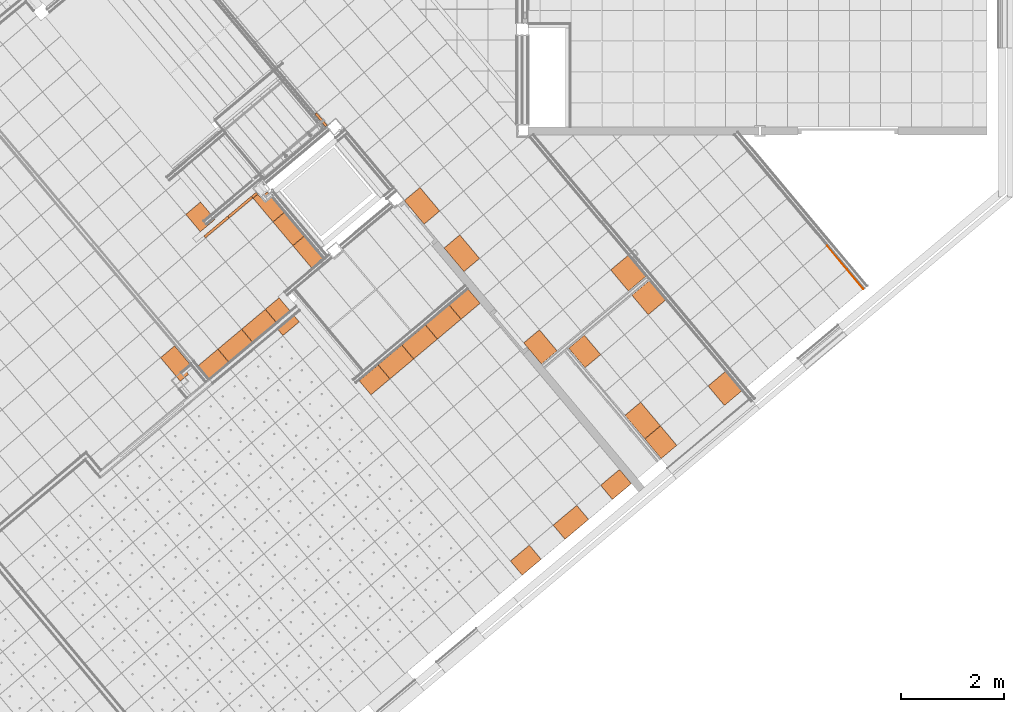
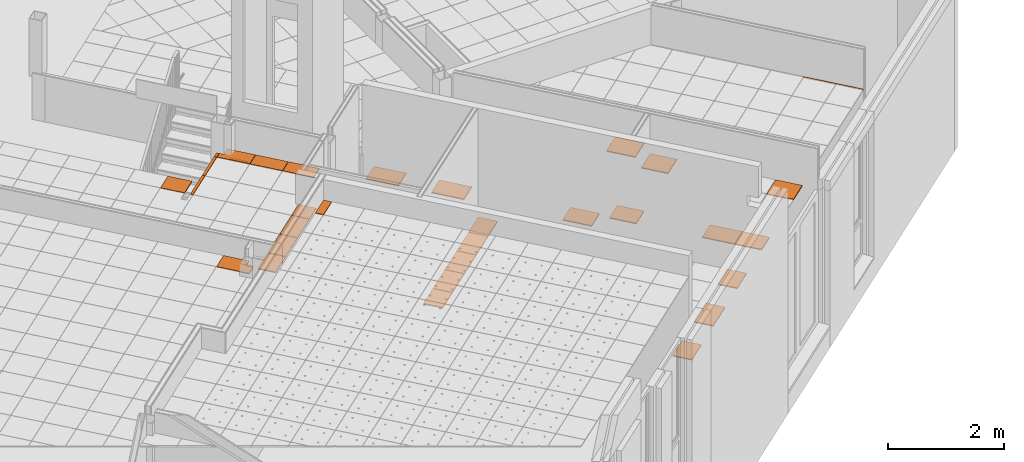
# One storey, part 329 of 338: 33 proxies, 7 elements without a shape of their own.
"""IFC2X3 building model written with IfcOpenShell, lengths in millimetres."""

from ifc_helpers import new_model, entity, si_unit, converted_unit, derived_unit, money_unit, direction, frame, origin_with_axes, place, context, subcontext, project, spatial, faceted_brep, material, type_object, element, aggregate, save


model = new_model("IFC2X3")

# Units and contexts
model_context = context("Model", 3, precision=0.01, world=origin_with_axes(), true_north=direction((0.0, 1.0)))
plan_context = context("Plan", 3, precision=0.01, world=origin_with_axes(), true_north=direction((0.0, 1.0)))
body_context = subcontext(model_context, "Body", "Model", "MODEL_VIEW")
ifc_project = project(units=[si_unit("LENGTHUNIT", "METRE", prefix="MILLI"), si_unit("AREAUNIT", "SQUARE_METRE"), si_unit("VOLUMEUNIT", "CUBIC_METRE"), converted_unit("PLANEANGLEUNIT", "DEGREE", entity("IfcPlaneAngleMeasure", 0.0174532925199), si_unit("PLANEANGLEUNIT", "RADIAN"), dimensions=[0, 0, 0, 0, 0, 0, 0]), money_unit("EUR"), converted_unit("TIMEUNIT", "Year", entity("IfcTimeMeasure", 31556926.0), si_unit("TIMEUNIT", "SECOND"), dimensions=[0, 0, 1, 0, 0, 0, 0]), si_unit("MASSUNIT", "GRAM", prefix="KILO"), si_unit("THERMODYNAMICTEMPERATUREUNIT", "DEGREE_CELSIUS"), si_unit("LUMINOUSINTENSITYUNIT", "LUMEN"), si_unit("ENERGYUNIT", "JOULE", prefix="MEGA"), derived_unit("THERMALCONDUCTANCEUNIT", [(si_unit("POWERUNIT", "WATT"), 1), (si_unit("LENGTHUNIT", "METRE"), -1), (si_unit("THERMODYNAMICTEMPERATUREUNIT", "KELVIN"), -1)]), derived_unit("SPECIFICHEATCAPACITYUNIT", [(si_unit("ENERGYUNIT", "JOULE"), 1), (si_unit("MASSUNIT", "GRAM", prefix="KILO"), -1), (si_unit("THERMODYNAMICTEMPERATUREUNIT", "KELVIN"), -1)]), derived_unit("MASSDENSITYUNIT", [(si_unit("MASSUNIT", "GRAM", prefix="KILO"), 1), (si_unit("VOLUMEUNIT", "CUBIC_METRE"), -1)])], contexts=[model_context, plan_context])

# Site, building, storey
site_placement = place(None, origin_with_axes())
site = spatial("IfcSite", under=ifc_project, at=site_placement, Name="Fortuinstraat Woensdrecht", CompositionType="ELEMENT")
building_placement = place(site_placement, origin_with_axes())
building = spatial("IfcBuilding", under=site, at=building_placement, Name="IKC Fortuna", CompositionType="ELEMENT")
storey_placement = place(building_placement, origin_with_axes())
storey = spatial("IfcBuildingStorey", under=building, at=storey_placement, Name="00 begane grond", CompositionType="ELEMENT", Elevation=0.0)

# Covering, proxy
covering_type = type_object("IfcCoveringType", Name="Curtain Wall Type", PredefinedType="CEILING")
covering_1_placement = place(storey_placement, frame((27661.2988988, -1812.1109843, 2810.0), z_axis=(0.0, 0.0, 1.0), x_axis=(1.0, 0.0, 0.0)))
covering_1 = element("IfcCovering", 1, at=covering_1_placement, inside=storey, type_object=covering_type, Name="45_Plafondafwerking_P02 gec", PredefinedType="CEILING")
ifc_material = material(Name="Gipsplaat")
building_element_proxy_type_1 = type_object("IfcBuildingElementProxyType", Name="Distinct Panel 400 x 600 x 20", PredefinedType="NOTDEFINED")
proxy_1_placement = place(covering_1_placement, frame((281.259191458, -2046.50140739, 0.0), z_axis=(0.0, 0.0, 1.0), x_axis=(1.0, 0.0, 0.0)))
proxy_1 = element("IfcBuildingElementProxy", 2, at=proxy_1_placement, type_object=building_element_proxy_type_1, material=ifc_material, Name="__Panel-D", context=body_context, shape_type="Brep", body=[
    faceted_brep([(-39.9287102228, 354.854541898, -10.0), (-39.9287102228, 354.854541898, 9.99999999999), (342.529974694, -100.941844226, 9.99999999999), (342.529974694, -100.941844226, -10.0), (-342.52999242, 100.94185488, -10.0), (-342.52999242, 100.94185488, 9.99999999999), (39.9287138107, -354.854531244, 9.99999999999), (39.9287138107, -354.854531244, -10.0)], [[[0, 1, 2, 3]], [[4, 5, 1, 0]], [[1, 5, 6, 2]], [[3, 2, 6, 7]], [[0, 3, 7, 4]], [[7, 6, 5, 4]]]),
])

covering_2_placement = place(storey_placement, frame((26804.4884552, -1724.43837499, 3010.0), z_axis=(0.0, 0.0, 1.0), x_axis=(1.0, 0.0, 0.0)))
covering_2 = element("IfcCovering", 3, at=covering_2_placement, inside=storey, type_object=covering_type, Name="45_Plafondafwerking_P04", PredefinedType="CEILING")
proxy_2_placement = place(covering_2_placement, frame((-2365.66482567, 1108.01392246, 0.0), z_axis=(0.0, 0.0, 1.0), x_axis=(1.0, 0.0, 0.0)))
proxy_2 = element("IfcBuildingElementProxy", 4, at=proxy_2_placement, type_object=building_element_proxy_type_1, material=ifc_material, Name="__Panel-D", context=body_context, shape_type="Brep", body=[
    faceted_brep([(-39.9453310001, 354.840514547, -10.0), (-342.513192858, 100.956003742, -10.0), (-342.513192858, 100.956003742, 9.99999999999), (-39.9453310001, 354.840514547, 9.99999999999), (342.513214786, -100.955990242, -10.0), (39.9453103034, -354.840522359, -10.0), (39.9453103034, -354.840522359, 9.99999999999), (342.513214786, -100.955990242, 9.99999999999)], [[[0, 1, 2, 3]], [[0, 4, 5, 1]], [[1, 5, 6, 2]], [[3, 2, 6, 7]], [[4, 0, 3, 7]], [[5, 4, 7, 6]]]),
])

covering_3_placement = place(storey_placement, frame((17937.1227498, -4186.27868692, 4660.0), z_axis=(0.0, 0.0, 1.0), x_axis=(1.0, 0.0, 0.0)))
covering_3 = element("IfcCovering", 5, at=covering_3_placement, inside=storey, type_object=covering_type, Name="45_Plafondafwerking_P02", PredefinedType="CEILING")
building_element_proxy_type_2 = type_object("IfcBuildingElementProxyType", Name="Distinct Panel 360 x 600 x 20", PredefinedType="NOTDEFINED")
proxy_3_placement = place(covering_3_placement, frame((1036.85798382, 1396.35162056, 0.0), z_axis=(0.0, 0.0, 1.0), x_axis=(1.0, 0.0, 0.0)))
proxy_3 = element("IfcBuildingElementProxy", 6, at=proxy_3_placement, type_object=building_element_proxy_type_2, material=ifc_material, Name="__Panel-D", context=body_context, shape_type="Brep", body=[
    faceted_brep([(-100.558865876, 377.965927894, -10.0), (-372.700892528, 149.611535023, -10.0), (-372.700892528, 149.611535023, 9.99999999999), (-100.558865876, 377.965927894, 9.99999999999), (198.355598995, 21.7316853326, -10.0), (87.279471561, -71.472800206, -10.0), (170.822699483, -171.035274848, -10.0), (9.75783810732, -306.184801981, -10.0), (9.75783810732, -306.184801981, 9.99999999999), (170.822699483, -171.035274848, 9.99999999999), (87.279471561, -71.472800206, 9.99999999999), (198.355598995, 21.7316853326, 9.99999999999)], [[[0, 1, 2, 3]], [[0, 4, 5, 6, 7, 1]], [[1, 7, 8, 2]], [[3, 2, 8, 9, 10, 11]], [[4, 0, 3, 11]], [[5, 4, 11, 10]], [[6, 5, 10, 9]], [[7, 6, 9, 8]]]),
])
aggregate(covering_3, [proxy_3])

# Proxy
building_element_proxy_type_3 = type_object("IfcBuildingElementProxyType", Name="Distinct Panel 400 x 497 x 20", PredefinedType="NOTDEFINED")
proxy_4_placement = place(covering_1_placement, frame((633.828768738, -2466.67732944, 0.0), z_axis=(0.0, 0.0, 1.0), x_axis=(1.0, 0.0, 0.0)))
proxy_4 = element("IfcBuildingElementProxy", 7, at=proxy_4_placement, type_object=building_element_proxy_type_3, material=ifc_material, Name="__Panel-D", context=body_context, shape_type="Brep", body=[
    faceted_brep([(-6.82565973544, 315.403854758, -10.0), (-6.82565973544, 315.403854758, 9.99999999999), (309.426917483, -61.4911693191, 9.99999999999), (309.426917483, -61.4911693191, -10.0), (-309.426923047, 61.4911567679, -10.0), (-309.426923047, 61.4911567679, 9.99999999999), (6.82566365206, -315.403838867, 9.99999999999), (6.82566365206, -315.403838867, -10.0)], [[[0, 1, 2, 3]], [[4, 5, 1, 0]], [[1, 5, 6, 2]], [[3, 2, 6, 7]], [[0, 3, 7, 4]], [[7, 6, 5, 4]]]),
])

proxy_5_placement = place(covering_1_placement, frame((-842.655646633, -707.072262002, 0.0), z_axis=(0.0, 0.0, 1.0), x_axis=(1.0, 0.0, 0.0)))
proxy_5 = element("IfcBuildingElementProxy", 8, at=proxy_5_placement, type_object=building_element_proxy_type_3, material=ifc_material, Name="__Panel-D", context=body_context, shape_type="Brep", body=[
    faceted_brep([(-6.82566375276, 315.403851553, -10.0), (-6.82566375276, 315.403851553, 9.99999999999), (309.426913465, -61.4911725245, 9.99999999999), (309.426913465, -61.4911725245, -10.0), (-309.426917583, 61.491172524, -10.0), (-309.426917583, 61.491172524, 9.99999999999), (6.82566911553, -315.403851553, 9.99999999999), (6.82566911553, -315.403851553, -10.0)], [[[0, 1, 2, 3]], [[4, 5, 1, 0]], [[1, 5, 6, 2]], [[3, 2, 6, 7]], [[0, 3, 7, 4]], [[7, 6, 5, 4]]]),
])

building_element_proxy_type_4 = type_object("IfcBuildingElementProxyType", Name="Distinct Panel 450 x 497 x 20", PredefinedType="NOTDEFINED")
proxy_6_placement = place(covering_1_placement, frame((1878.65072665, -1422.14735911, 0.0), z_axis=(0.0, 0.0, 1.0), x_axis=(1.0, 0.0, 0.0)))
proxy_6 = element("IfcBuildingElementProxy", 9, at=proxy_6_placement, type_object=building_element_proxy_type_4, material=ifc_material, Name="__Panel-D", context=body_context, shape_type="Brep", body=[
    faceted_brep([(12.3116005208, 331.461929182, -10.0), (12.3116005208, 331.461929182, 9.99999999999), (328.564179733, -45.4330850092, 9.99999999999), (328.564179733, -45.4330850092, -10.0), (-328.564174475, 45.4330951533, -10.0), (-328.564174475, 45.4330951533, 9.99999999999), (-12.311605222, -331.461928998, 9.99999999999), (-12.311605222, -331.461928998, -10.0)], [[[0, 1, 2, 3]], [[4, 5, 1, 0]], [[1, 5, 6, 2]], [[3, 2, 6, 7]], [[0, 3, 7, 4]], [[7, 6, 5, 4]]]),
])

proxy_7_placement = place(covering_1_placement, frame((402.166312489, 337.457709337, 0.0), z_axis=(0.0, 0.0, 1.0), x_axis=(1.0, 0.0, 0.0)))
proxy_7 = element("IfcBuildingElementProxy", 10, at=proxy_7_placement, type_object=building_element_proxy_type_4, material=ifc_material, Name="__Panel-D", context=body_context, shape_type="Brep", body=[
    faceted_brep([(12.3115954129, 331.461924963, -10.0), (12.3115954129, 331.461924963, 9.99999999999), (328.564194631, -45.4330694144, 9.99999999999), (328.564194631, -45.4330694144, -10.0), (-328.564189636, 45.4330908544, -10.0), (-328.564189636, 45.4330908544, 9.99999999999), (-12.3116103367, -331.461933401, 9.99999999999), (-12.3116103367, -331.461933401, -10.0)], [[[0, 1, 2, 3]], [[4, 5, 1, 0]], [[1, 5, 6, 2]], [[3, 2, 6, 7]], [[0, 3, 7, 4]], [[7, 6, 5, 4]]]),
])

aggregate(covering_1, [proxy_4, proxy_6, proxy_1, proxy_5, proxy_7])

# Covering, proxies
covering_4_placement = place(storey_placement, frame((30245.4600673, -364.084118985, 2810.0), z_axis=(0.0, 0.0, 1.0), x_axis=(1.0, 0.0, 0.0)))
covering_4 = element("IfcCovering", 11, at=covering_4_placement, inside=storey, type_object=covering_type, Name="45_Plafondafwerking_P02", PredefinedType="CEILING")
building_element_proxy_type_5 = type_object("IfcBuildingElementProxyType", Name="Distinct Panel 10 x 600 x 20", PredefinedType="NOTDEFINED")
proxy_8_placement = place(covering_4_placement, frame((1464.75600026, -337.413769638, 0.0), z_axis=(0.0, 0.0, 1.0), x_axis=(1.0, 0.0, 0.0)))
proxy_8 = element("IfcBuildingElementProxy", 12, at=proxy_8_placement, type_object=building_element_proxy_type_5, material=ifc_material, Name="__Panel-D", context=body_context, shape_type="Brep", body=[
    faceted_brep([(-189.172956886, 229.623709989, -10.0), (-193.285187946, 226.173141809, -10.0), (-193.285187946, 226.173141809, 10.0), (-189.172956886, 229.623709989, 10.0), (193.285187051, -226.17314037, -10.0), (189.172955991, -229.623701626, -10.0), (189.172955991, -229.623701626, 10.0), (193.285187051, -226.17314037, 10.0)], [[[0, 1, 2, 3]], [[0, 4, 5, 1]], [[1, 5, 6, 2]], [[3, 2, 6, 7]], [[4, 0, 3, 7]], [[5, 4, 7, 6]]]),
])
building_element_proxy_type_6 = type_object("IfcBuildingElementProxyType", Name="Distinct Panel 10 x 494 x 20", PredefinedType="NOTDEFINED")
proxy_9_placement = place(covering_4_placement, frame((1816.26091771, -756.321932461, 0.0), z_axis=(0.0, 0.0, 1.0), x_axis=(1.0, 0.0, 0.0)))
proxy_9 = element("IfcBuildingElementProxy", 13, at=proxy_9_placement, type_object=building_element_proxy_type_6, material=ifc_material, Name="__Panel-D", context=body_context, shape_type="Brep", body=[
    faceted_brep([(-155.005796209, 188.904797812, -10.0), (-159.118025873, 185.454230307, -10.0), (-159.118025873, 185.454230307, 10.0), (-155.005796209, 188.904797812, 10.0), (159.118007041, -185.454253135, -10.0), (155.005817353, -188.904780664, -10.0), (155.005817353, -188.904780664, 10.0), (159.118007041, -185.454253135, 10.0)], [[[0, 1, 2, 3]], [[0, 4, 5, 1]], [[1, 5, 6, 2]], [[3, 2, 6, 7]], [[4, 0, 3, 7]], [[5, 4, 7, 6]]]),
])
aggregate(covering_4, [proxy_8, proxy_9])

# Proxy
building_element_proxy_type_7 = type_object("IfcBuildingElementProxyType", Name="Distinct Panel 450 x 539 x 20", PredefinedType="NOTDEFINED")
proxy_10_placement = place(covering_2_placement, frame((861.792906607, 723.129886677, 0.0), z_axis=(0.0, 0.0, 1.0), x_axis=(1.0, 0.0, 0.0)))
proxy_10 = element("IfcBuildingElementProxy", 14, at=proxy_10_placement, type_object=building_element_proxy_type_7, material=ifc_material, Name="__Panel-D", context=body_context, shape_type="Brep", body=[
    faceted_brep([(-1.12727009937, 347.477416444, -10.0), (-342.002697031, 61.4490723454, -10.0), (-342.002697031, 61.4490723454, 9.99999999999), (-1.12727009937, 347.477416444, 9.99999999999), (342.002685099, -61.4490602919, -10.0), (1.12727903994, -347.477414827, -10.0), (1.12727903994, -347.477414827, 9.99999999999), (342.002685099, -61.4490602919, 9.99999999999)], [[[0, 1, 2, 3]], [[0, 4, 5, 1]], [[1, 5, 6, 2]], [[3, 2, 6, 7]], [[4, 0, 3, 7]], [[5, 4, 7, 6]]]),
])

building_element_proxy_type_8 = type_object("IfcBuildingElementProxyType", Name="Distinct Panel 12 x 600 x 20", PredefinedType="NOTDEFINED")
proxy_11_placement = place(covering_2_placement, frame((-3204.30302164, 2049.12611358, 0.0), z_axis=(0.0, 0.0, 1.0), x_axis=(1.0, 0.0, 0.0)))
proxy_11 = element("IfcBuildingElementProxy", 15, at=proxy_11_placement, type_object=building_element_proxy_type_8, material=ifc_material, Name="__Panel-D", context=body_context, shape_type="Brep", body=[
    faceted_brep([(27.3478696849, 332.981763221, -10.0), (-267.565897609, 85.5198204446, -10.0), (-267.565897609, 85.5198204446, 9.99999999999), (27.3478696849, 332.981763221, 9.99999999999), (409.806423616, -122.81473262, -10.0), (107.238554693, -376.699228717, -10.0), (-275.219988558, 79.0972671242, -10.0), (-275.219988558, 79.0972671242, 9.99999999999), (107.238554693, -376.699228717, 9.99999999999), (409.806423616, -122.81473262, 9.99999999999)], [[[0, 1, 2, 3]], [[0, 4, 5, 6, 1]], [[1, 6, 7, 2]], [[3, 2, 7, 8, 9]], [[4, 0, 3, 9]], [[5, 4, 9, 8]], [[6, 5, 8, 7]]]),
])

building_element_proxy_type_9 = type_object("IfcBuildingElementProxyType", Name="Distinct Panel 400 x 539 x 20", PredefinedType="NOTDEFINED")
proxy_12_placement = place(covering_2_placement, frame((-842.639131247, -707.057964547, 0.0), z_axis=(0.0, 0.0, 1.0), x_axis=(1.0, 0.0, 0.0)))
proxy_12 = element("IfcBuildingElementProxy", 16, at=proxy_12_placement, type_object=building_element_proxy_type_9, material=ifc_material, Name="__Panel-D", context=body_context, shape_type="Brep", body=[
    faceted_brep([(-20.2810691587, 331.40552387, -10.0), (-322.848964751, 77.5210015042, -10.0), (-322.848964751, 77.5210015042, 9.99999999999), (-20.2810691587, 331.40552387, 9.99999999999), (322.848922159, -77.5209959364, -10.0), (20.2810763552, -331.405458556, -10.0), (20.2810763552, -331.405458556, 9.99999999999), (322.848922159, -77.5209959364, 9.99999999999)], [[[0, 1, 2, 3]], [[0, 4, 5, 1]], [[1, 5, 6, 2]], [[3, 2, 6, 7]], [[4, 0, 3, 7]], [[5, 4, 7, 6]]]),
])

building_element_proxy_type_10 = type_object("IfcBuildingElementProxyType", Name="Distinct Panel 52 x 327 x 20", PredefinedType="NOTDEFINED")
proxy_13_placement = place(covering_2_placement, frame((-5093.86779163, 3696.22632023, 0.0), z_axis=(0.0, 0.0, 1.0), x_axis=(1.0, 0.0, 0.0)))
proxy_13 = element("IfcBuildingElementProxy", 17, at=proxy_13_placement, type_object=building_element_proxy_type_10, material=ifc_material, Name="__Panel-D", context=body_context, shape_type="Brep", body=[
    faceted_brep([(-85.404068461, 138.715967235, -10.0), (-121.778261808, 108.194399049, -10.0), (-121.778261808, 108.194399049, 9.99999999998), (-85.404068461, 138.715967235, 9.99999999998), (121.778266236, -108.194400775, -10.0), (85.4040686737, -138.715964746, -10.0), (85.4040686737, -138.715964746, 9.99999999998), (121.778266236, -108.194400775, 9.99999999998)], [[[0, 1, 2, 3]], [[0, 4, 5, 1]], [[1, 5, 6, 2]], [[3, 2, 6, 7]], [[4, 0, 3, 7]], [[5, 4, 7, 6]]]),
])

aggregate(covering_2, [proxy_10, proxy_11, proxy_2, proxy_12, proxy_13])

# Covering, proxy
covering_5_placement = place(storey_placement, frame((19785.7448517, -11392.5753808, 4660.0), z_axis=(0.0, 0.0, 1.0), x_axis=(1.0, 0.0, 0.0)))
covering_5 = element("IfcCovering", 18, at=covering_5_placement, inside=storey, type_object=covering_type, Name="45_Plafondafwerking_P01", PredefinedType="CEILING")
building_element_proxy_type_11 = type_object("IfcBuildingElementProxyType", Name="417 x 155 x 20", PredefinedType="NOTDEFINED")
proxy_14_placement = place(covering_5_placement, frame((1296.42223627, 9372.27179059, 0.0), z_axis=(0.0, 0.0, 1.0), x_axis=(1.0, 0.0, 0.0)))
proxy_14 = element("IfcBuildingElementProxy", 19, at=proxy_14_placement, type_object=building_element_proxy_type_11, material=ifc_material, Name="__600x690 Rockfon Krios", context=body_context, shape_type="Brep", body=[
    faceted_brep([(109.787520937, 190.02739154, -10.0), (-206.204794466, -75.1218239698, -10.0), (-206.204794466, -75.1218239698, 9.99999999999), (109.787520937, 190.02739154, 9.99999999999), (206.204803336, 75.1218110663, -10.0), (-109.78752452, -190.027379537, -10.0), (-109.78752452, -190.027379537, 9.99999999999), (206.204803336, 75.1218110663, 9.99999999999)], [[[0, 1, 2, 3]], [[0, 4, 5, 1]], [[1, 5, 6, 2]], [[3, 2, 6, 7]], [[4, 0, 3, 7]], [[5, 4, 7, 6]]]),
])
aggregate(covering_5, [proxy_14])

# Covering, proxies
covering_6_placement = place(storey_placement, frame((23826.4460301, -4357.43121765, 2810.0), z_axis=(0.0, 0.0, 1.0), x_axis=(1.0, 0.0, 0.0)))
covering_6 = element("IfcCovering", 20, at=covering_6_placement, inside=storey, type_object=covering_type, Name="45_Plafondafwerking_P02", PredefinedType="CEILING")
building_element_proxy_type_12 = type_object("IfcBuildingElementProxyType", Name="Distinct Panel 600 x 361 x 20", PredefinedType="NOTDEFINED")
proxy_15_placement = place(covering_6_placement, frame((-665.505499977, 1635.09621107, 0.0), z_axis=(0.0, 0.0, 1.0), x_axis=(1.0, 0.0, 0.0)))
proxy_15 = element("IfcBuildingElementProxy", 21, at=proxy_15_placement, type_object=building_element_proxy_type_12, material=ifc_material, Name="__Panel-D", context=body_context, shape_type="Brep", body=[
    faceted_brep([(113.58804674, 327.45879658, -10.0), (-342.208280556, -54.9999421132, -10.0), (-342.208280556, -54.9999421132, 9.99999999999), (113.58804674, 327.45879658, 9.99999999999), (342.208287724, 54.9999440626, -10.0), (-113.588060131, -327.45879463, -10.0), (-113.588060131, -327.45879463, 9.99999999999), (342.208287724, 54.9999440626, 9.99999999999)], [[[0, 1, 2, 3]], [[0, 4, 5, 1]], [[1, 5, 6, 2]], [[3, 2, 6, 7]], [[4, 0, 3, 7]], [[5, 4, 7, 6]]]),
])
proxy_16_placement = place(covering_6_placement, frame((253.747635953, 2406.44157605, 0.0), z_axis=(0.0, 0.0, 1.0), x_axis=(1.0, 0.0, 0.0)))
proxy_16 = element("IfcBuildingElementProxy", 22, at=proxy_16_placement, type_object=building_element_proxy_type_12, material=ifc_material, Name="__Panel-D", context=body_context, shape_type="Brep", body=[
    faceted_brep([(113.588060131, 327.45879658, -10.0), (-342.208277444, -54.9999421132, -10.0), (-342.208277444, -54.9999421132, 9.99999999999), (113.588060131, 327.45879658, 9.99999999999), (342.208290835, 54.9999440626, -10.0), (-113.588057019, -327.45879463, -10.0), (-113.588057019, -327.45879463, 9.99999999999), (342.208290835, 54.9999440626, 9.99999999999)], [[[0, 1, 2, 3]], [[0, 4, 5, 1]], [[1, 5, 6, 2]], [[3, 2, 6, 7]], [[4, 0, 3, 7]], [[5, 4, 7, 6]]]),
])
proxy_17_placement = place(covering_6_placement, frame((-205.878932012, 2020.76889356, 0.0), z_axis=(0.0, 0.0, 1.0), x_axis=(1.0, 0.0, 0.0)))
proxy_17 = element("IfcBuildingElementProxy", 23, at=proxy_17_placement, type_object=building_element_proxy_type_12, material=ifc_material, Name="__Panel-D", context=body_context, shape_type="Brep", body=[
    faceted_brep([(113.588057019, 327.4587863, -10.0), (-342.208280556, -54.9999421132, -10.0), (-342.208280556, -54.9999421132, 9.99999999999), (113.588057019, 327.4587863, 9.99999999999), (342.208298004, 54.9999337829, -10.0), (-113.588060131, -327.45879463, -10.0), (-113.588060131, -327.45879463, 9.99999999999), (342.208298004, 54.9999337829, 9.99999999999)], [[[0, 1, 2, 3]], [[0, 4, 5, 1]], [[1, 5, 6, 2]], [[3, 2, 6, 7]], [[4, 0, 3, 7]], [[5, 4, 7, 6]]]),
])
proxy_18_placement = place(covering_6_placement, frame((2725.66396687, -1472.90608687, 0.0), z_axis=(0.0, 0.0, 1.0), x_axis=(1.0, 0.0, 0.0)))
proxy_18 = element("IfcBuildingElementProxy", 24, at=proxy_18_placement, type_object=building_element_proxy_type_12, material=ifc_material, Name="__Panel-D", context=body_context, shape_type="Brep", body=[
    faceted_brep([(113.58811213, 327.458729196, -10.0), (-342.208229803, -55.0000041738, -10.0), (-342.208229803, -55.0000041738, 9.99999999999), (113.58811213, 327.458729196, 9.99999999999), (342.208247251, 54.9999993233, -10.0), (-113.588104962, -327.458734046, -10.0), (-113.588104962, -327.458734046, 9.99999999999), (342.208247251, 54.9999993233, 9.99999999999)], [[[0, 1, 2, 3]], [[0, 4, 5, 1]], [[1, 5, 6, 2]], [[3, 2, 6, 7]], [[4, 0, 3, 7]], [[5, 4, 7, 6]]]),
])
building_element_proxy_type_13 = type_object("IfcBuildingElementProxyType", Name="Distinct Panel 482 x 361 x 20", PredefinedType="NOTDEFINED")
proxy_19_placement = place(covering_6_placement, frame((-1080.09878856, 1287.21095618, 0.0), z_axis=(0.0, 0.0, 1.0), x_axis=(1.0, 0.0, 0.0)))
proxy_19 = element("IfcBuildingElementProxy", 25, at=proxy_19_placement, type_object=building_element_proxy_type_13, material=ifc_material, Name="__Panel-D", context=body_context, shape_type="Brep", body=[
    faceted_brep([(68.5547778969, 289.671366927, -10.0), (-297.175006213, -17.2125205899, -10.0), (-297.175006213, -17.2125205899, 9.99999999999), (68.5547778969, 289.671366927, 9.99999999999), (297.175010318, 17.2125198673, -10.0), (-68.5547827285, -289.671367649, -10.0), (-68.5547827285, -289.671367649, 9.99999999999), (297.175010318, 17.2125198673, 9.99999999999)], [[[0, 1, 2, 3]], [[0, 4, 5, 1]], [[1, 5, 6, 2]], [[3, 2, 6, 7]], [[4, 0, 3, 7]], [[5, 4, 7, 6]]]),
])
proxy_20_placement = place(covering_6_placement, frame((1851.44408895, -2206.46404218, 0.0), z_axis=(0.0, 0.0, 1.0), x_axis=(1.0, 0.0, 0.0)))
proxy_20 = element("IfcBuildingElementProxy", 26, at=proxy_20_placement, type_object=building_element_proxy_type_13, material=ifc_material, Name="__Panel-D", context=body_context, shape_type="Brep", body=[
    faceted_brep([(68.5548523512, 289.671317, -10.0), (-297.174980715, -17.2125977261, -10.0), (-297.174980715, -17.2125977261, 9.99999999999), (68.5548523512, 289.671317, 9.99999999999), (297.174984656, 17.212591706, -10.0), (-68.5548484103, -289.671314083, -10.0), (-68.5548484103, -289.671314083, 9.99999999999), (297.174984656, 17.212591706, 9.99999999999)], [[[0, 1, 2, 3]], [[0, 4, 5, 1]], [[1, 5, 6, 2]], [[3, 2, 6, 7]], [[4, 0, 3, 7]], [[5, 4, 7, 6]]]),
])
proxy_21_placement = place(covering_6_placement, frame((668.340900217, 2754.32681054, 0.0), z_axis=(0.0, 0.0, 1.0), x_axis=(1.0, 0.0, 0.0)))
proxy_21 = element("IfcBuildingElementProxy", 27, at=proxy_21_placement, type_object=building_element_proxy_type_13, material=ifc_material, Name="__Panel-D", context=body_context, shape_type="Brep", body=[
    faceted_brep([(68.5547513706, 289.671345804, -10.0), (-297.174990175, -17.2125031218, -10.0), (-297.174990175, -17.2125031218, 9.99999999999), (68.5547513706, 289.671345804, 9.99999999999), (297.174977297, 17.2124992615, -10.0), (-68.5547553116, -289.671340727, -10.0), (-68.5547553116, -289.671340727, 9.99999999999), (297.174977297, 17.2124992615, 9.99999999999)], [[[0, 1, 2, 3]], [[0, 4, 5, 1]], [[1, 5, 6, 2]], [[3, 2, 6, 7]], [[4, 0, 3, 7]], [[5, 4, 7, 6]]]),
])
proxy_22_placement = place(covering_6_placement, frame((3599.88379621, -739.348172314, 0.0), z_axis=(0.0, 0.0, 1.0), x_axis=(1.0, 0.0, 0.0)))
proxy_22 = element("IfcBuildingElementProxy", 28, at=proxy_22_placement, type_object=building_element_proxy_type_13, material=ifc_material, Name="__Panel-D", context=body_context, shape_type="Brep", body=[
    faceted_brep([(68.5547948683, 289.671281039, -10.0), (-297.174936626, -17.2125680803, -10.0), (-297.174936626, -17.2125680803, 9.99999999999), (68.5547948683, 289.671281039, 9.99999999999), (297.174936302, 17.2125623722, -10.0), (-68.5548041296, -289.671277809, -10.0), (-68.5548041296, -289.671277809, 9.99999999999), (297.174936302, 17.2125623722, 9.99999999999)], [[[0, 1, 2, 3]], [[0, 4, 5, 1]], [[1, 5, 6, 2]], [[3, 2, 6, 7]], [[4, 0, 3, 7]], [[5, 4, 7, 6]]]),
])
aggregate(covering_6, [proxy_15, proxy_19, proxy_16, proxy_20, proxy_17, proxy_21, proxy_18, proxy_22])

covering_7_placement = place(storey_placement, frame((19821.8074512, -1204.73183435, 4460.0), z_axis=(0.0, 0.0, 1.0), x_axis=(1.0, 0.0, 0.0)))
covering_7 = element("IfcCovering", 29, at=covering_7_placement, inside=storey, type_object=covering_type, Name="45_Plafondafwerking_P04", PredefinedType="CEILING")
building_element_proxy_type_14 = type_object("IfcBuildingElementProxyType", Name="Distinct Panel 600 x 55 x 20", PredefinedType="NOTDEFINED")
proxy_23_placement = place(covering_7_placement, frame((322.984956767, 1481.94988885, 0.0), z_axis=(0.0, 0.0, 1.0), x_axis=(1.0, 0.0, 0.0)))
proxy_23 = element("IfcBuildingElementProxy", 30, at=proxy_23_placement, type_object=building_element_proxy_type_14, material=ifc_material, Name="__Panel-D", context=body_context, shape_type="Brep", body=[
    faceted_brep([(211.745861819, 210.478946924, -10.0), (211.745861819, 210.478946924, 9.99999999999), (244.050528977, 171.979752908, 9.99999999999), (244.050528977, 171.979752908, -10.0), (-244.05052785, -171.979745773, -10.0), (-244.05052785, -171.979745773, 9.99999999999), (-211.745860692, -210.478947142, 9.99999999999), (-211.745860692, -210.478947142, -10.0)], [[[0, 1, 2, 3]], [[4, 5, 1, 0]], [[1, 5, 6, 2]], [[3, 2, 6, 7]], [[0, 3, 7, 4]], [[7, 6, 5, 4]]]),
])
proxy_24_placement = place(covering_7_placement, frame((-136.641650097, 1096.27725272, 0.0), z_axis=(0.0, 0.0, 1.0), x_axis=(1.0, 0.0, 0.0)))
proxy_24 = element("IfcBuildingElementProxy", 31, at=proxy_24_placement, type_object=building_element_proxy_type_14, material=ifc_material, Name="__Panel-D", context=body_context, shape_type="Brep", body=[
    faceted_brep([(211.745861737, 210.478949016, -10.0), (211.745861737, 210.478949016, 9.99999999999), (244.050528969, 171.979754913, 9.99999999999), (244.050528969, 171.979754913, -10.0), (-244.050528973, -171.979751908, -10.0), (-244.050528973, -171.979751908, 9.99999999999), (-211.745861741, -210.478946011, 9.99999999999), (-211.745861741, -210.478946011, -10.0)], [[[0, 1, 2, 3]], [[4, 5, 1, 0]], [[1, 5, 6, 2]], [[3, 2, 6, 7]], [[0, 3, 7, 4]], [[7, 6, 5, 4]]]),
])
building_element_proxy_type_15 = type_object("IfcBuildingElementProxyType", Name="Distinct Panel 295 x 575 x 20", PredefinedType="NOTDEFINED")
proxy_25_placement = place(covering_7_placement, frame((1639.66619529, 608.977914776, 0.0), z_axis=(0.0, 0.0, 1.0), x_axis=(1.0, 0.0, 0.0)))
proxy_25 = element("IfcBuildingElementProxy", 32, at=proxy_25_placement, type_object=building_element_proxy_type_15, material=ifc_material, Name="__Panel-D", context=body_context, shape_type="Brep", body=[
    faceted_brep([(-72.0875815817, 311.491363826, -10.0), (-72.0875815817, 311.491363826, 9.99999999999), (294.241280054, -125.082225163, 9.99999999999), (294.241280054, -125.082225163, -10.0), (-294.241278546, 125.082225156, -10.0), (-294.241278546, 125.082225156, 9.99999999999), (72.0875830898, -311.491363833, 9.99999999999), (72.0875830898, -311.491363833, -10.0)], [[[0, 1, 2, 3]], [[4, 5, 1, 0]], [[1, 5, 6, 2]], [[3, 2, 6, 7]], [[0, 3, 7, 4]], [[7, 6, 5, 4]]]),
])
building_element_proxy_type_16 = type_object("IfcBuildingElementProxyType", Name="Distinct Panel 295 x 600 x 20", PredefinedType="NOTDEFINED")
proxy_26_placement = place(covering_7_placement, frame((1262.05847611, 1058.99313088, 0.0), z_axis=(0.0, 0.0, 1.0), x_axis=(1.0, 0.0, 0.0)))
proxy_26 = element("IfcBuildingElementProxy", 33, at=proxy_26_placement, type_object=building_element_proxy_type_16, material=ifc_material, Name="__Panel-D", context=body_context, shape_type="Brep", body=[
    faceted_brep([(-80.1525054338, 321.102766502, -10.0), (-80.1525054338, 321.102766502, 10.0), (302.306198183, -134.693623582, 10.0), (302.306198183, -134.693623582, -10.0), (-302.306201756, 134.693613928, -10.0), (-302.306201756, 134.693613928, 10.0), (80.1525018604, -321.102766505, 10.0), (80.1525018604, -321.102766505, -10.0)], [[[0, 1, 2, 3]], [[4, 5, 1, 0]], [[1, 5, 6, 2]], [[3, 2, 6, 7]], [[0, 3, 7, 4]], [[7, 6, 5, 4]]]),
])
building_element_proxy_type_17 = type_object("IfcBuildingElementProxyType", Name="Distinct Panel 378 x 445 x 20", PredefinedType="NOTDEFINED")
proxy_27_placement = place(covering_7_placement, frame((-446.647384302, 1293.04410517, 0.0), z_axis=(0.0, 0.0, 1.0), x_axis=(1.0, 0.0, 0.0)))
proxy_27 = element("IfcBuildingElementProxy", 34, at=proxy_27_placement, type_object=building_element_proxy_type_17, material=ifc_material, Name="__Panel-D", context=body_context, shape_type="Brep", body=[
    faceted_brep([(1.53752669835, 288.311922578, -10.0), (1.53752669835, 288.311922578, 9.99999999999), (284.198819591, -48.5505867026, 9.99999999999), (284.198819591, -48.5505867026, -10.0), (-284.1988225, 48.550587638, -10.0), (-284.1988225, 48.550587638, 9.99999999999), (-1.53752093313, -288.311921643, 9.99999999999), (-1.53752093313, -288.311921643, -10.0)], [[[0, 1, 2, 3]], [[4, 5, 1, 0]], [[1, 5, 6, 2]], [[3, 2, 6, 7]], [[0, 3, 7, 4]], [[7, 6, 5, 4]]]),
])
building_element_proxy_type_18 = type_object("IfcBuildingElementProxyType", Name="Distinct Panel 350 x 332 x 20", PredefinedType="NOTDEFINED")
proxy_28_placement = place(covering_7_placement, frame((1049.2149284, -511.435668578, 0.0), z_axis=(0.0, 0.0, 1.0), x_axis=(1.0, 0.0, 0.0)))
proxy_28 = element("IfcBuildingElementProxy", 35, at=proxy_28_placement, type_object=building_element_proxy_type_18, material=ifc_material, Name="__Panel-D", context=body_context, shape_type="Brep", body=[
    faceted_brep([(26.9156095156, 236.286467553, -10.0), (26.9156095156, 236.286467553, 9.99999999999), (237.370591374, -14.5239314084, 9.99999999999), (237.370591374, -14.5239314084, -10.0), (-237.370591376, 14.523930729, -10.0), (-237.370591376, 14.523930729, 9.99999999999), (-26.9156166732, -236.286461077, 9.99999999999), (-26.9156166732, -236.286461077, -10.0)], [[[0, 1, 2, 3]], [[4, 5, 1, 0]], [[1, 5, 6, 2]], [[3, 2, 6, 7]], [[0, 3, 7, 4]], [[7, 6, 5, 4]]]),
])
building_element_proxy_type_19 = type_object("IfcBuildingElementProxyType", Name="Distinct Panel 600 x 332 x 20", PredefinedType="NOTDEFINED")
proxy_29_placement = place(covering_7_placement, frame((685.343411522, -816.760219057, 0.0), z_axis=(0.0, 0.0, 1.0), x_axis=(1.0, 0.0, 0.0)))
proxy_29 = element("IfcBuildingElementProxy", 36, at=proxy_29_placement, type_object=building_element_proxy_type_19, material=ifc_material, Name="__Panel-D", context=body_context, shape_type="Brep", body=[
    faceted_brep([(122.670705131, 316.634554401, -10.0), (122.670705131, 316.634554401, 9.99999999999), (333.12569169, 65.8241563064, 9.99999999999), (333.12569169, 65.8241563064, -10.0), (-333.125689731, -65.8241496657, -10.0), (-333.125689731, -65.8241496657, 9.99999999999), (-122.670703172, -316.63454776, 9.99999999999), (-122.670703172, -316.63454776, -10.0)], [[[0, 1, 2, 3]], [[4, 5, 1, 0]], [[1, 5, 6, 2]], [[3, 2, 6, 7]], [[0, 3, 7, 4]], [[7, 6, 5, 4]]]),
])
proxy_30_placement = place(covering_7_placement, frame((225.716804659, -1202.43285519, 0.0), z_axis=(0.0, 0.0, 1.0), x_axis=(1.0, 0.0, 0.0)))
proxy_30 = element("IfcBuildingElementProxy", 37, at=proxy_30_placement, type_object=building_element_proxy_type_19, material=ifc_material, Name="__Panel-D", context=body_context, shape_type="Brep", body=[
    faceted_brep([(122.670704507, 316.634548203, -10.0), (122.670704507, 316.634548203, 9.99999999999), (333.12569168, 65.8241593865, 9.99999999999), (333.12569168, 65.8241593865, -10.0), (-333.125681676, -65.8241469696, -10.0), (-333.125681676, -65.8241469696, 9.99999999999), (-122.670704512, -316.634545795, 9.99999999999), (-122.670704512, -316.634545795, -10.0)], [[[0, 1, 2, 3]], [[4, 5, 1, 0]], [[1, 5, 6, 2]], [[3, 2, 6, 7]], [[0, 3, 7, 4]], [[7, 6, 5, 4]]]),
])
building_element_proxy_type_20 = type_object("IfcBuildingElementProxyType", Name="Distinct Panel 123 x 55 x 20", PredefinedType="NOTDEFINED")
proxy_31_placement = place(covering_7_placement, frame((599.833897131, 1714.25380479, 0.0), z_axis=(0.0, 0.0, 1.0), x_axis=(1.0, 0.0, 0.0)))
proxy_31 = element("IfcBuildingElementProxy", 38, at=proxy_31_placement, type_object=building_element_proxy_type_20, material=ifc_material, Name="__Panel-D", context=body_context, shape_type="Brep", body=[
    faceted_brep([(28.9681926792, 57.1102231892, -10.0), (28.9681926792, 57.1102231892, 10.0), (61.272857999, 18.6110342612, 10.0), (61.272857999, 18.6110342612, -10.0), (-61.2728599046, -18.6110336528, -10.0), (-61.2728599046, -18.6110336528, 10.0), (-28.9681926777, -57.1102225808, 10.0), (-28.9681926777, -57.1102225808, -10.0)], [[[0, 1, 2, 3]], [[4, 5, 1, 0]], [[1, 5, 6, 2]], [[3, 2, 6, 7]], [[0, 3, 7, 4]], [[7, 6, 5, 4]]]),
])
building_element_proxy_type_21 = type_object("IfcBuildingElementProxyType", Name="Distinct Panel 295 x 520 x 20", PredefinedType="NOTDEFINED")
proxy_32_placement = place(covering_7_placement, frame((822.886099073, 1569.56984894, 0.0), z_axis=(0.0, 0.0, 1.0), x_axis=(1.0, 0.0, 0.0)))
proxy_32 = element("IfcBuildingElementProxy", 39, at=proxy_32_placement, type_object=building_element_proxy_type_21, material=ifc_material, Name="__Panel-D", context=body_context, shape_type="Brep", body=[
    faceted_brep([(24.6050222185, 209.066031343, -10.0), (24.6050222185, 209.066031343, 10.0), (355.805948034, -185.643728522, 10.0), (355.805948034, -185.643728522, -10.0), (-107.307620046, 98.3781401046, -10.0), (-107.307620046, 98.3781401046, 10.0), (-158.565401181, 159.46476763, 10.0), (-248.806466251, 83.7435060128, 10.0), (133.6522407, -372.052872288, 10.0), (133.6522407, -372.052872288, -10.0), (-248.806466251, 83.7435060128, -10.0), (-158.565401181, 159.46476763, -10.0)], [[[0, 1, 2, 3]], [[4, 5, 1, 0]], [[1, 5, 6, 7, 8, 2]], [[3, 2, 8, 9]], [[0, 3, 9, 10, 11, 4]], [[11, 6, 5, 4]], [[10, 7, 6, 11]], [[9, 8, 7, 10]]]),
])
building_element_proxy_type_22 = type_object("IfcBuildingElementProxyType", Name="Distinct Panel 500 x 332 x 20", PredefinedType="NOTDEFINED")
proxy_33_placement = place(covering_7_placement, frame((-195.606872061, -1555.96550678, 0.0), z_axis=(0.0, 0.0, 1.0), x_axis=(1.0, 0.0, 0.0)))
proxy_33 = element("IfcBuildingElementProxy", 40, at=proxy_33_placement, type_object=building_element_proxy_type_22, material=ifc_material, Name="__Panel-D", context=body_context, shape_type="Brep", body=[
    faceted_brep([(84.3677837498, 284.494564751, -10.0), (84.3677837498, 284.494564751, 9.99999999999), (294.822748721, 33.6841653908, 9.99999999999), (294.822748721, 33.6841653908, -10.0), (-294.822767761, -33.6841800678, -10.0), (-294.822767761, -33.6841800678, 9.99999999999), (-84.3677584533, -284.494543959, 9.99999999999), (-84.3677584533, -284.494543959, -10.0)], [[[0, 1, 2, 3]], [[4, 5, 1, 0]], [[1, 5, 6, 2]], [[3, 2, 6, 7]], [[0, 3, 7, 4]], [[7, 6, 5, 4]]]),
])
aggregate(covering_7, [proxy_23, proxy_25, proxy_26, proxy_27, proxy_28, proxy_29, proxy_24, proxy_31, proxy_32, proxy_33, proxy_30])

save(model, "model.ifc")
